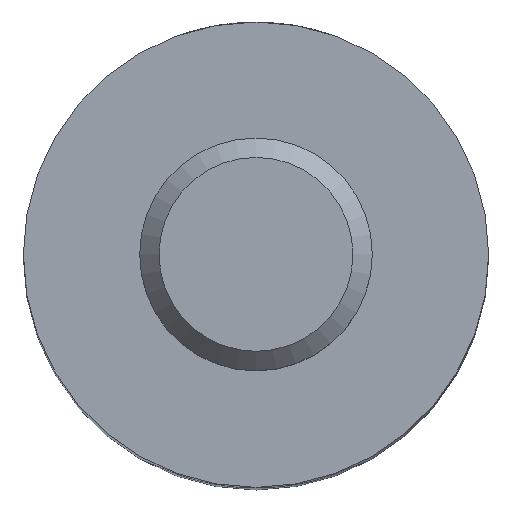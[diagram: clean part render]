
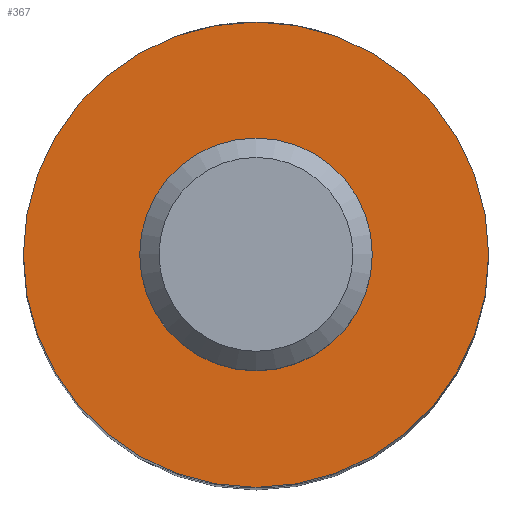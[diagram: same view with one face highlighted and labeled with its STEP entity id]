
A CAD part, top view. The second image highlights one B-rep face of the part: STEP entity #367.
In plain terms, the highlighted planar face has unit normal (0, 0, 1).
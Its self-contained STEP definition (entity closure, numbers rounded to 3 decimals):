
#77=CARTESIAN_POINT('',(6.,0.,40.0));
#78=VERTEX_POINT('',#77);
#79=CARTESIAN_POINT('',(0.0,0.0,40.0));
#80=DIRECTION('',(0.0,0.0,-1.0));
#81=DIRECTION('',(-1.0,0.0,0.0));
#82=AXIS2_PLACEMENT_3D('',#79,#80,#81);
#83=CIRCLE('',#82,6.);
#84=EDGE_CURVE('',#78,#78,#83,.T.);
#332=CARTESIAN_POINT('',(2.5,0.,40.0));
#333=VERTEX_POINT('',#332);
#334=CARTESIAN_POINT('',(0.0,0.0,40.0));
#335=DIRECTION('',(0.0,0.0,1.0));
#336=DIRECTION('',(-1.0,0.0,0.0));
#337=AXIS2_PLACEMENT_3D('',#334,#335,#336);
#338=CIRCLE('',#337,2.5);
#339=EDGE_CURVE('',#333,#333,#338,.T.);
#356=CARTESIAN_POINT('',(0.0,0.0,40.0));
#357=DIRECTION('',(0.0,0.0,1.0));
#358=DIRECTION('',(1.0,0.0,0.0));
#359=AXIS2_PLACEMENT_3D('',#356,#357,#358);
#360=PLANE('',#359);
#361=ORIENTED_EDGE('',*,*,#84,.F.);
#362=EDGE_LOOP('',(#361));
#363=FACE_OUTER_BOUND('',#362,.T.);
#364=ORIENTED_EDGE('',*,*,#339,.F.);
#365=EDGE_LOOP('',(#364));
#366=FACE_BOUND('',#365,.T.);
#367=ADVANCED_FACE('',(#363,#366),#360,.T.);
